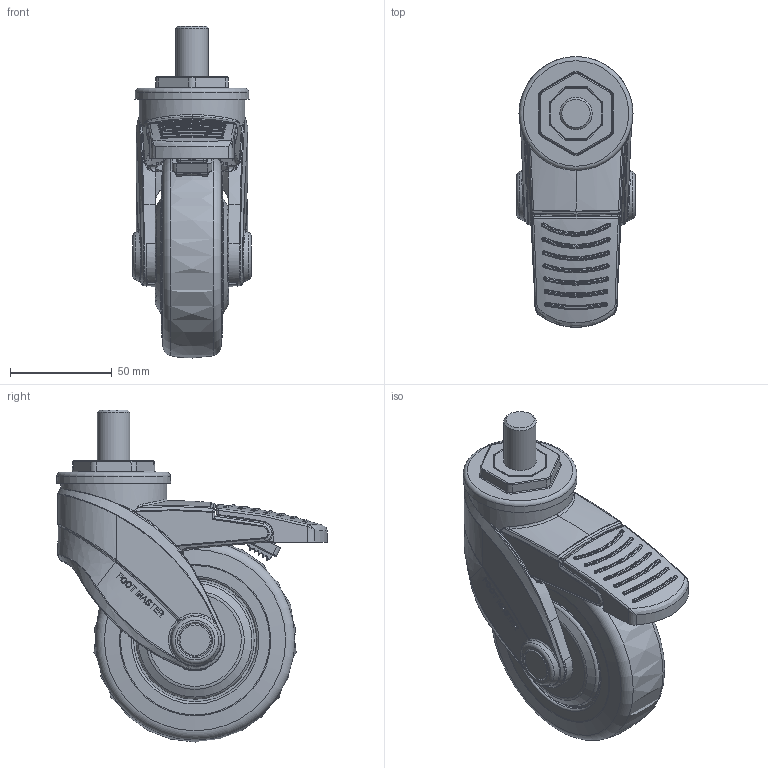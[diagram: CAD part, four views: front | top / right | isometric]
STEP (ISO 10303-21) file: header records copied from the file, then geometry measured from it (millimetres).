
FILE_DESCRIPTION(/* description */ (''),/* implementation_level */ '2;1');
FILE_NAME(/* name */ '\\192.168.10.38\지덕공유\1.기술연구소\2.연구개발 진행중\129.Plastic caster검토건_2025.08.12\1.도면\4.홈페이지용 도면\GPC-100-BSS_F4-8_#6806_5-8-11 UNC STEM_샤프트 리벳_Shrinkwrap_1.stp',/* time_stamp */ '2026-08-20T20:14:56+09:00',/* author */ ('admin'),/* organization */ (''),/* preprocessor_version */ 'ST-DEVELOPER v18.1',/* originating_system */ 'Autodesk Inventor 2021',/* authorisation */ '');
FILE_SCHEMA (('AUTOMOTIVE_DESIGN { 1 0 10303 214 3 1 1 }'));
Length unit declared in the file: millimetre
Products named in the file (1): #102220
Bounding box: 58 x 133 x 163 mm (x, y, z)
Volume: 416434.8 mm3; surface area: 66600.1 mm2
Topology: 1 solids, 1 shells, 1668 faces, 4249 edges, 2598 vertices
Faces by surface type: bspline 898, plane 388, cylinder 251, cone 50, sphere 43, torus 38
Full cylindrical faces by diameter (mm): 15.875 x1, 52 x1
Entity records: 102160 total; most frequent: CARTESIAN_POINT 67736, ORIENTED_EDGE 8436, DIRECTION 5100, EDGE_CURVE 4218, VERTEX_POINT 2598, AXIS2_PLACEMENT_3D 2012, B_SPLINE_CURVE_WITH_KNOTS 1880, EDGE_LOOP 1722
